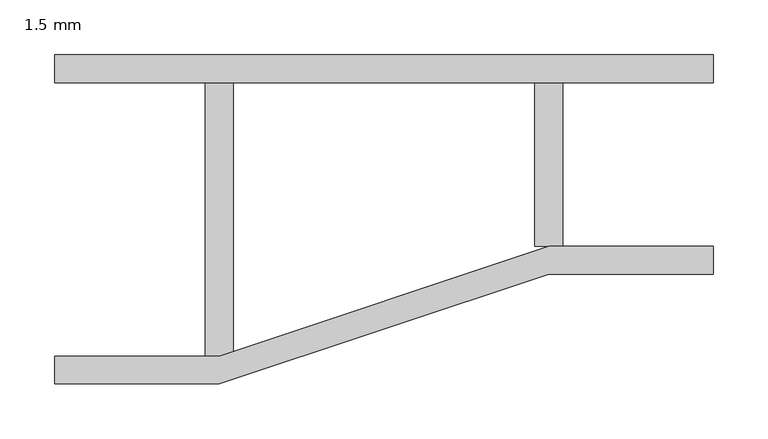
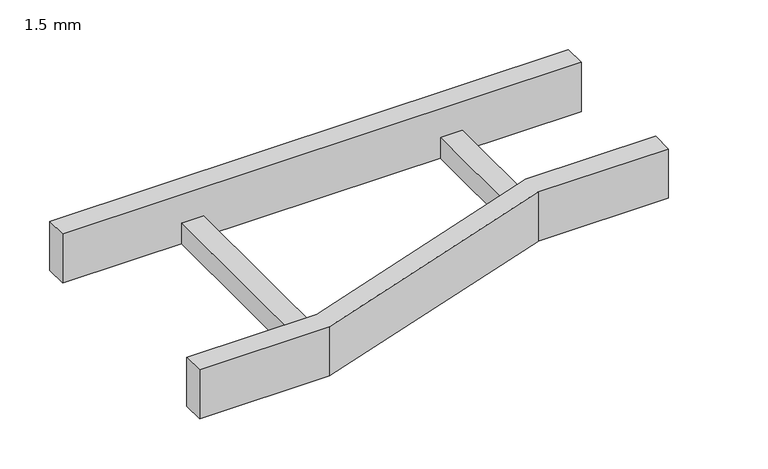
"""IFC4 building model written with IfcOpenShell, lengths in millimetres: cable carrier fitting geometry, BAKS_Redukcja_drabiny E90 : 1.5 mm."""

import ifcopenshell
import ifcopenshell.guid

model = None  # the IFC model being written
_history = None  # IfcOwnerHistory: only IFC2X3 demands one
_inside = {}  # id of a spatial element -> (the spatial element, [elements in it])
_under = {}  # id of a project, library or spatial element -> (it, [spatial elements below it])
_declared = {}  # id of a project -> (the project, [libraries it declares])
_typed = {}  # id of a type object -> (the type object, [elements of that type])
_made_of = {}  # id of a material, layer set ... -> (it, [elements and type objects made of it])


def new_model(schema):
    """Start an empty IFC model of exactly this schema.

    Asked for "IFC4X3", IfcOpenShell would pick the latest addendum, in which some entities
    have other attributes; the version numbers below select the first issue.
    IFC2X3 requires an IfcOwnerHistory on every rooted entity: one is made here for all.
    """
    global model, _history
    if schema == "IFC4X3":
        model = ifcopenshell.file(schema_version=(4, 3, 0, 0))
    else:
        model = ifcopenshell.file(schema=schema)
    _inside.clear()
    _under.clear()
    _declared.clear()
    _typed.clear()
    _made_of.clear()
    _history = None
    if model.schema == "IFC2X3":
        org = make("IfcOrganization", Name="unknown")
        user = make(
            "IfcPersonAndOrganization",
            ThePerson=make("IfcPerson", FamilyName="unknown"),
            TheOrganization=org,
        )
        app = make(
            "IfcApplication",
            ApplicationDeveloper=org,
            Version="unknown",
            ApplicationFullName="unknown",
            ApplicationIdentifier="unknown",
        )
        _history = make(
            "IfcOwnerHistory",
            OwningUser=user,
            OwningApplication=app,
            ChangeAction="ADDED",
            CreationDate=0,
        )
    return model


def make(cls, **values):
    """One entity of the class cls with the attributes given. An attribute that is None is left unset."""
    return model.create_entity(
        cls, **{name: value for name, value in values.items() if value is not None}
    )


def rooted(cls, **values):
    """An entity with a GlobalId (a new one), such as an element, a storey or a relation."""
    return make(cls, GlobalId=ifcopenshell.guid.new(), OwnerHistory=_history, **values)


def si_unit(unit_type, name, prefix=None):
    """IfcSIUnit, for example si_unit("LENGTHUNIT", "METRE", prefix="MILLI")."""
    return make("IfcSIUnit", UnitType=unit_type, Prefix=prefix, Name=name)


def assignment(units):
    """IfcUnitAssignment: the units of a project."""
    return None if units is None else make("IfcUnitAssignment", Units=units)


def point(xyz):
    """IfcCartesianPoint."""
    return None if xyz is None else make("IfcCartesianPoint", Coordinates=xyz)


def direction(xyz):
    """IfcDirection."""
    return None if xyz is None else make("IfcDirection", DirectionRatios=xyz)


def frame(location, z_axis=None, x_axis=None):
    """IfcAxis2Placement3D, a coordinate frame: its origin and axes. An axis left out is left unset."""
    return make(
        "IfcAxis2Placement3D",
        Location=point(location),
        Axis=direction(z_axis),
        RefDirection=direction(x_axis),
    )


def origin():
    """The frame at (0, 0, 0) with its axes left unset."""
    return frame((0.0, 0.0, 0.0))


def place(relative_to, where):
    """IfcLocalPlacement: puts the frame where relative to a parent placement (None: the world)."""
    return make(
        "IfcLocalPlacement", PlacementRelTo=relative_to, RelativePlacement=where
    )


def context(
    kind, dimensions, precision=None, world=None, true_north=None, identifier=None
):
    """IfcGeometricRepresentationContext, for example the 3D "Model" context."""
    return make(
        "IfcGeometricRepresentationContext",
        ContextIdentifier=identifier,
        ContextType=kind,
        CoordinateSpaceDimension=dimensions,
        Precision=precision,
        WorldCoordinateSystem=world,
        TrueNorth=true_north,
    )


def project(units=None, contexts=None):
    """IfcProject with its units and contexts."""
    return rooted(
        "IfcProject",
        Name="project",
        RepresentationContexts=contexts,
        UnitsInContext=assignment(units),
    )


def spatial(cls, under=None, at=None, **own):
    """A site, building, storey or space (cls), placed at a placement, below another one or the project."""
    s = rooted(cls, ObjectPlacement=at, **own)
    if under is not None:
        _under.setdefault(under.id(), (under, []))[1].append(s)
    return s


def polyline(points):
    """IfcPolyline through the points."""
    return make("IfcPolyline", Points=[point(p) for p in points])


def outline(outer, holes=None, kind="AREA"):
    """IfcArbitraryClosedProfileDef: a profile drawn as a closed curve; with holes, ...WithVoids."""
    if holes is None:
        return make("IfcArbitraryClosedProfileDef", ProfileType=kind, OuterCurve=outer)
    return make(
        "IfcArbitraryProfileDefWithVoids",
        ProfileType=kind,
        OuterCurve=outer,
        InnerCurves=holes,
    )


def extrude(swept, where, along, depth):
    """IfcExtrudedAreaSolid: the profile swept, set in the frame where, extruded along a direction by depth."""
    return make(
        "IfcExtrudedAreaSolid",
        SweptArea=swept,
        Position=where,
        ExtrudedDirection=direction(along),
        Depth=depth,
    )


def shape(context_of_items, identifier, shape_type, items):
    """IfcShapeRepresentation: the items that make up one representation, for example the "Body"."""
    return make(
        "IfcShapeRepresentation",
        ContextOfItems=context_of_items,
        RepresentationIdentifier=identifier,
        RepresentationType=shape_type,
        Items=items,
    )


def source(mapping_origin, context_of_items, identifier, shape_type, items):
    """IfcRepresentationMap: a shape defined once, which mapped items show again and again."""
    return make(
        "IfcRepresentationMap",
        MappingOrigin=mapping_origin,
        MappedRepresentation=shape(context_of_items, identifier, shape_type, items),
    )


def transform(
    local_origin,
    x_axis=None,
    y_axis=None,
    z_axis=None,
    scale=None,
    scale2=None,
    scale3=None,
    uniform=True,
):
    """IfcCartesianTransformationOperator3D, or its non-uniform kind. x_axis, y_axis, z_axis: its Axis1, 2, 3."""
    if uniform:
        return make(
            "IfcCartesianTransformationOperator3D",
            Axis1=direction(x_axis),
            Axis2=direction(y_axis),
            LocalOrigin=point(local_origin),
            Scale=scale,
            Axis3=direction(z_axis),
        )
    return make(
        "IfcCartesianTransformationOperator3DnonUniform",
        Axis1=direction(x_axis),
        Axis2=direction(y_axis),
        LocalOrigin=point(local_origin),
        Scale=scale,
        Axis3=direction(z_axis),
        Scale2=scale2,
        Scale3=scale3,
    )


def mapped(mapping_source, mapping_target):
    """IfcMappedItem: shows the shape of a source again, moved by a transform."""
    return make(
        "IfcMappedItem", MappingSource=mapping_source, MappingTarget=mapping_target
    )


def made_of(thing, what):
    """Note that an element or type object is made of a material, layer set ...; save() writes the relation."""
    if what is not None:
        _made_of.setdefault(what.id(), (what, []))[1].append(thing)
    return thing


def element(
    cls,
    number,
    at=None,
    inside=None,
    cuts=None,
    type_object=None,
    material=None,
    context=None,
    identifier="Body",
    shape_type=None,
    held_by="IfcProductDefinitionShape",
    body=None,
    shapes=None,
    **own,
):
    """One element of the class cls, such as IfcWall. Its Tag is "e" and its number.

    at: its placement. inside: the storey or other place that contains it. cuts: it is an
    opening in that element (IfcRelVoidsElement). A single representation is given by context,
    identifier, shape_type and body (its items); several are given by shapes. held_by: the class
    of the entity that holds the representations. save() writes the other relations.
    """
    e = rooted(cls, Tag="e%d" % number, ObjectPlacement=at, **own)
    if body is not None:
        shapes = [shape(context, identifier, shape_type, body)]
    if shapes is not None:
        e.Representation = make(held_by, Representations=shapes)
    if inside is not None:
        _inside.setdefault(inside.id(), (inside, []))[1].append(e)
    if cuts is not None:
        rooted(
            "IfcRelVoidsElement", RelatingBuildingElement=cuts, RelatedOpeningElement=e
        )
    if type_object is not None:
        _typed.setdefault(type_object.id(), (type_object, []))[1].append(e)
    return made_of(e, material)


def aggregate(whole, parts):
    """IfcRelAggregates: a whole, such as a stair, and the parts it consists of."""
    return rooted("IfcRelAggregates", RelatingObject=whole, RelatedObjects=parts)


def save(model, path):
    """Write the relations noted so far, then the file.

    IfcRelAggregates (storeys below a building ...), IfcRelContainedInSpatialStructure (elements
    in a storey), IfcRelDefinesByType, IfcRelAssociatesMaterial and IfcRelDeclares: one each for
    every whole, place, type object, material and project.
    """
    for whole, parts in _under.values():
        aggregate(whole, parts)
    for where, things in _inside.values():
        rooted(
            "IfcRelContainedInSpatialStructure",
            RelatedElements=things,
            RelatingStructure=where,
        )
    for kind, things in _typed.values():
        rooted("IfcRelDefinesByType", RelatedObjects=things, RelatingType=kind)
    for what, things in _made_of.values():
        rooted("IfcRelAssociatesMaterial", RelatedObjects=things, RelatingMaterial=what)
    for by, libraries in _declared.values():
        rooted("IfcRelDeclares", RelatingContext=by, RelatedDefinitions=libraries)
    model.write(path)


def cable_carrier_fitting_1_5_mm_2af02ecb(model_context):
    return source(origin(), model_context, "Body", "SweptSolid", [
        extrude(outline(polyline([(0.0, -150.0), (0.0, -124.6), (150.0, -124.6), (450.0, -24.6), (600.0, -24.6), (600.0, -50.0), (450.0, -50.0), (150.0, -150.0), (0.0, -150.0)])), frame((0.0, 0.0, -30.0), z_axis=(0.0, 0.0, 1.0), x_axis=(1.0, 0.0, 0.0)), (0.0, 0.0, 1.0), 60.0),
        extrude(outline(polyline([(0.0, 124.6), (0.0, 150.0), (600.0, 150.0), (600.0, 124.6), (0.0, 124.6)])), frame((0.0, 0.0, -30.0), z_axis=(0.0, 0.0, 1.0), x_axis=(1.0, 0.0, 0.0)), (0.0, 0.0, 1.0), 60.0),
        extrude(outline(polyline([(437.3, 124.6), (462.7, 124.6), (462.7, -24.6), (437.3, -24.6), (437.3, 124.6)])), frame((0.0, 0.0, -30.0), z_axis=(0.0, 0.0, 1.0), x_axis=(1.0, 0.0, 0.0)), (0.0, 0.0, 1.0), 25.4),
        extrude(outline(polyline([(137.3, 124.6), (162.7, 124.6), (162.7, -124.6), (137.3, -124.6), (137.3, 124.6)])), frame((0.0, 0.0, -30.0), z_axis=(0.0, 0.0, 1.0), x_axis=(1.0, 0.0, 0.0)), (0.0, 0.0, 1.0), 25.4),
    ])


if __name__ == "__main__":
    model = new_model("IFC4")
    model_context = context("Model", 3, world=origin())
    ifc_project = project(units=[si_unit("LENGTHUNIT", "METRE", prefix="MILLI")], contexts=[model_context])
    site = spatial("IfcSite", under=ifc_project)
    building = spatial("IfcBuilding", under=site)
    placement = place(None, origin())
    cable_carrier_fitting_1_5_mm_shape = cable_carrier_fitting_1_5_mm_2af02ecb(model_context)
    element("IfcCableCarrierFitting", 1, ObjectType="BAKS_Redukcja_drabiny E90 : 1.5 mm", at=placement, inside=building, context=model_context, shape_type="MappedRepresentation", body=[
        mapped(cable_carrier_fitting_1_5_mm_shape, transform((0.0, 0.0, 0.0), x_axis=(1.0, 0.0, 0.0), y_axis=(0.0, 1.0, 0.0), z_axis=(0.0, 0.0, 1.0))),
    ])
    save(model, "model.ifc")
